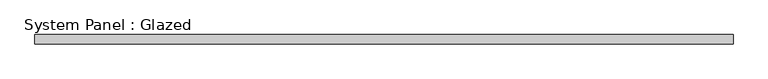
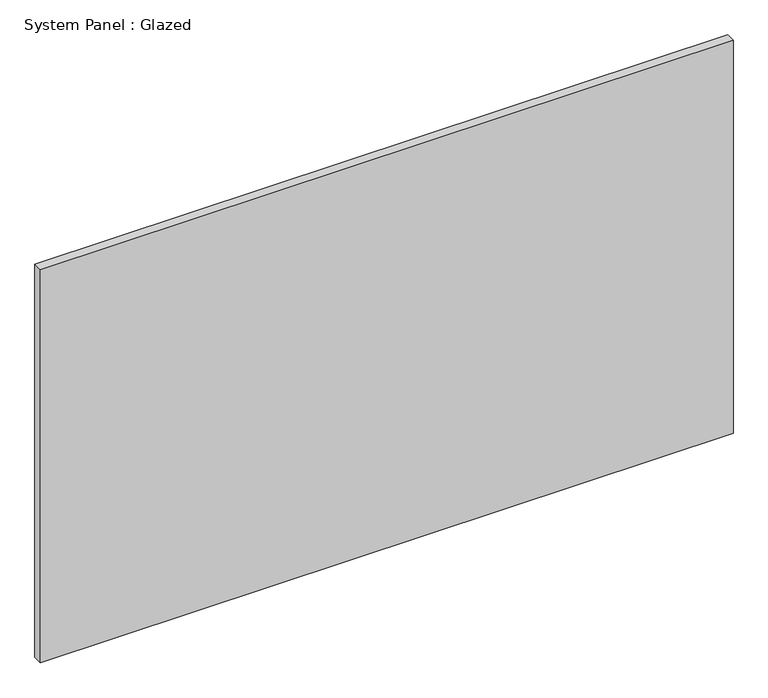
"""IFC4 building model written with IfcOpenShell, lengths in millimetres: plate geometry, System Panel : Glazed."""

from ifc_helpers import new_model, si_unit, origin, origin_with_axes, place, context, project, spatial, polyline, outline, extrude, source, transform, mapped, element, save


def system_panel_glazed_01db37db(model_context):
    return source(origin(), model_context, "Body", "SweptSolid", [
        extrude(outline(polyline([(936.625, -44.45), (-936.625, -44.45), (-936.625, -19.05), (936.625, -19.05), (936.625, -44.45)])), origin_with_axes(), (0.0, 0.0, 1.0), 1123.95),
    ])


if __name__ == "__main__":
    model = new_model("IFC4")
    model_context = context("Model", 3, world=origin())
    ifc_project = project(units=[si_unit("LENGTHUNIT", "METRE", prefix="MILLI")], contexts=[model_context])
    site = spatial("IfcSite", under=ifc_project)
    building = spatial("IfcBuilding", under=site)
    placement = place(None, origin())
    system_panel_glazed_shape = system_panel_glazed_01db37db(model_context)
    element("IfcPlate", 1, ObjectType="System Panel : Glazed", at=placement, inside=building, context=model_context, shape_type="MappedRepresentation", body=[
        mapped(system_panel_glazed_shape, transform((0.0, 0.0, 0.0), x_axis=(1.0, 0.0, 0.0), y_axis=(0.0, 1.0, 0.0), z_axis=(0.0, 0.0, 1.0))),
    ])
    save(model, "model.ifc")
